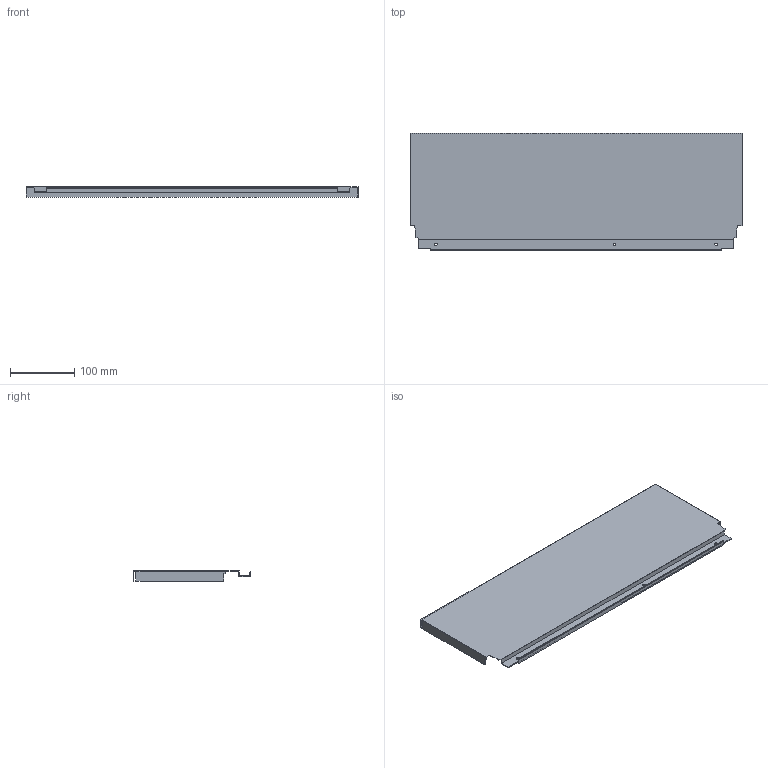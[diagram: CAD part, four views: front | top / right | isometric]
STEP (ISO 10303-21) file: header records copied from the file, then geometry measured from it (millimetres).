
FILE_DESCRIPTION (( 'STEP AP214' ), '1' );
FILE_NAME ('_DWD_XP Stahlrückwand_H182_KAB600_S16.step', '2010-07-08T12:57:34', ( 'grass' ), ( '' ), 'SwSTEP 2.0', 'SolidWorks 2010', '' );
FILE_SCHEMA (( 'AUTOMOTIVE_DESIGN' ));
Length unit declared in the file: millimetre
Products named in the file (1): _DWD_XP Stahlrückwand_H182_KAB600_S16
Bounding box: 517 x 182.49 x 16 mm (x, y, z)
Volume: 97537.3 mm3; surface area: 226328.6 mm2
Topology: 1 solids, 1 shells, 46 faces, 132 edges, 88 vertices
Faces by surface type: plane 40, cylinder 6
Entity records: 1534 total; most frequent: CARTESIAN_POINT 267, ORIENTED_EDGE 264, DIRECTION 238, EDGE_CURVE 132, LINE 120, VECTOR 120, VERTEX_POINT 88, AXIS2_PLACEMENT_3D 59
